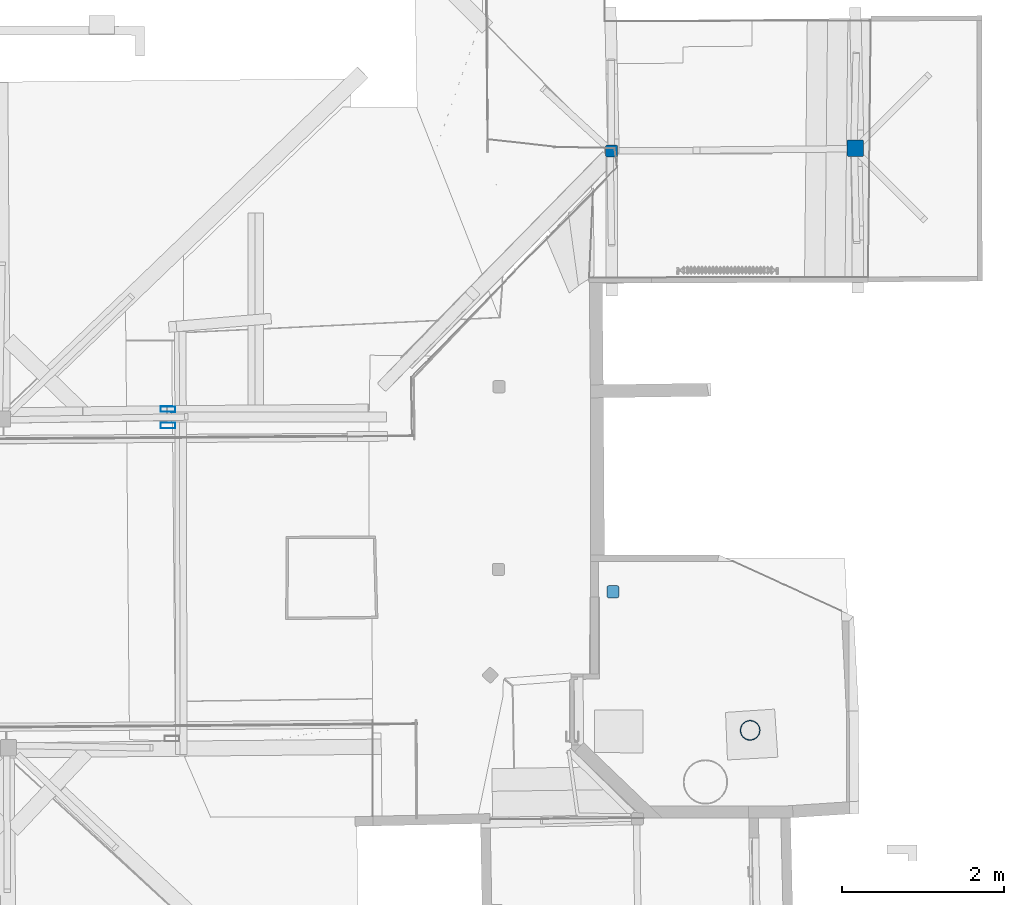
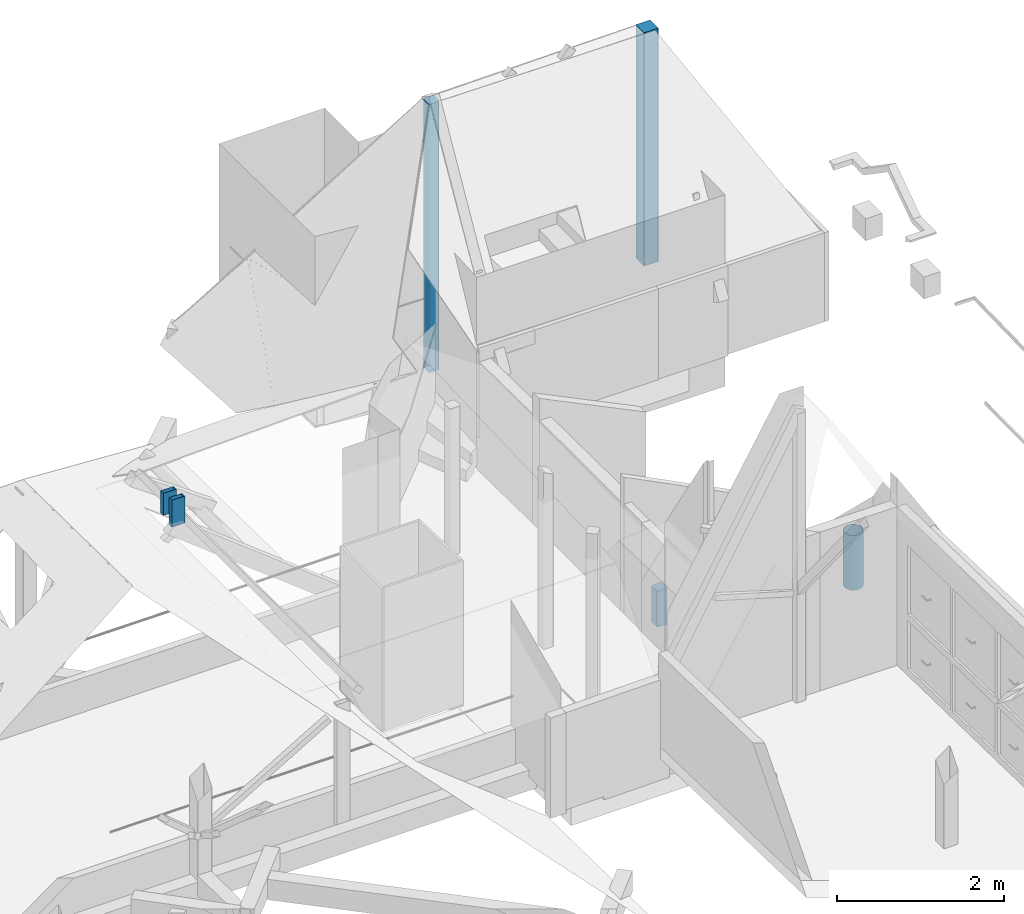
# One storey, part 3 of 39: 6 columns.
"""IFC2X3 building model written with IfcOpenShell, lengths in centimetres."""

from ifc_helpers import new_model, entity, si_unit, converted_unit, direction, frame, origin, origin_with_axes, origin_2d_with_axis, place, context, subcontext, project, spatial, polyline, rounded_rectangle, hollow_rectangle, hollow_circle, extrude, clip, bounded_halfspace, source, transform, mapped, material, type_object, element, save


model = new_model("IFC2X3")

# Units and contexts
model_context = context("Model", 3, precision=0.0001, world=origin(), true_north=direction((0.225632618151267, 0.974212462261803, 0.0)))
body_context = subcontext(model_context, "Body", "Model", "MODEL_VIEW")
ifc_project = project(units=[si_unit("LENGTHUNIT", "METRE", prefix="CENTI"), si_unit("AREAUNIT", "SQUARE_METRE", prefix="CENTI"), si_unit("VOLUMEUNIT", "CUBIC_METRE", prefix="CENTI"), converted_unit("PLANEANGLEUNIT", "DEGREE", entity("IfcRatioMeasure", 0.0174532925), si_unit("PLANEANGLEUNIT", "RADIAN"), dimensions=[0, 0, 0, 0, 0, 0, 0])], contexts=[model_context])

# Site, building, storey
site_placement = place(None, origin_with_axes())
site = spatial("IfcSite", under=ifc_project, at=site_placement, Name="Default Site", CompositionType="ELEMENT")
building_placement = place(site_placement, origin_with_axes())
building = spatial("IfcBuilding", under=site, at=building_placement, Name="Default Building", CompositionType="ELEMENT")
storey_placement = place(building_placement, frame((0.0, 0.0, 1088.91037418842), z_axis=(0.0, 0.0, 1.0), x_axis=(1.0, 0.0, 0.0)))
storey = spatial("IfcBuildingStorey", under=building, at=storey_placement, Name="Mezzanine", CompositionType="ELEMENT", Elevation=1088.91037418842)

# Columns
ifc_material_1 = material(Name="Blanc")
column_type_1 = type_object("IfcColumnType", Name="150.0x150.0x25.0", PredefinedType="USERDEFINED", material=ifc_material_1)
shared_shape_1 = source(origin_with_axes(), body_context, "Body", "SweptSolid", [
    extrude(rounded_rectangle(XDim=15.0, YDim=15.0, RoundingRadius=2.5, at=origin_2d_with_axis()), origin_with_axes(), (0.0, 0.0, 1.0), 100.0),
])
column_1_placement = place(storey_placement, frame((534.47933101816, -73.8568738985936, 0.0), z_axis=(0.0, 0.0, 1.0), x_axis=(1.0, 0.0, 0.0)))
element("IfcColumn", 1, at=column_1_placement, inside=storey, type_object=column_type_1, material=ifc_material_1, Name="Poteau 197676", ObjectType="column", context=body_context, shape_type="MappedRepresentation", body=[
    mapped(shared_shape_1, transform((0.0, 0.0, -1.77635683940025e-13), x_axis=(1.0, 0.0, 0.0), y_axis=(0.0, 1.0, 0.0), z_axis=(0.0, 0.0, 1.0), scale=1.0, scale2=1.0, scale3=0.523938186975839, uniform=False)),
])
column_2_placement = place(storey_placement, frame((532.922333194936, 469.305511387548, 43.0), z_axis=(0.0, 0.0, 1.0), x_axis=(1.0, 0.0, 0.0)))
element("IfcColumn", 2, at=column_2_placement, inside=storey, type_object=column_type_1, material=ifc_material_1, Name="Poteau 196095", ObjectType="column", context=body_context, shape_type="MappedRepresentation", body=[
    mapped(shared_shape_1, transform((0.0, 0.0, -1.77635683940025e-13), x_axis=(1.0, 0.0, 0.0), y_axis=(0.0, 1.0, 0.0), z_axis=(0.0, 0.0, 1.0), scale=1.0, scale2=1.0, scale3=3.91702416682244, uniform=False)),
])
ifc_material_2 = material(Name="Aluminium mat")
column_type_2 = type_object("IfcColumnType", Name="O 244.5x6.3", PredefinedType="USERDEFINED", material=ifc_material_2)
shared_shape_2 = source(origin_with_axes(), body_context, "Body", "SweptSolid", [
    extrude(hollow_circle(Radius=12.225, WallThickness=0.63, at=origin_2d_with_axis()), origin_with_axes(), (0.0, 0.0, 1.0), 100.0),
])
column_3_placement = place(storey_placement, frame((703.661144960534, -244.579724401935, 100.0), z_axis=(0.0, 0.0, 1.0), x_axis=(1.0, 0.0, 0.0)))
element("IfcColumn", 3, at=column_3_placement, inside=storey, type_object=column_type_2, material=ifc_material_2, Name="Poteau Acier 197633", ObjectType="column", context=body_context, shape_type="MappedRepresentation", body=[
    mapped(shared_shape_2, transform((-8.88178419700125e-14, 0.0, -1.77635683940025e-13), x_axis=(1.0, 0.0, 0.0), y_axis=(0.0, 1.0, 0.0), z_axis=(0.0, 0.0, 1.0), scale=1.0, scale2=1.0, scale3=0.797024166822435, uniform=False)),
])
column_type_3 = type_object("IfcColumnType", Name="200,00x200,00x10,00", PredefinedType="USERDEFINED", material=ifc_material_1)
shared_shape_3 = source(origin_with_axes(), body_context, "Body", "SweptSolid", [
    extrude(rounded_rectangle(XDim=20.0, YDim=20.0, RoundingRadius=1.0, at=origin_2d_with_axis()), origin_with_axes(), (0.0, 0.0, 1.0), 100.0),
])
column_4_placement = place(storey_placement, frame((833.247600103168, 472.80525459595, 93.9999999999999), z_axis=(0.0, 0.0, 1.0), x_axis=(1.0, 0.0, 0.0)))
element("IfcColumn", 4, at=column_4_placement, inside=storey, type_object=column_type_3, material=ifc_material_1, Name="Poteau 192923", ObjectType="column", context=body_context, shape_type="MappedRepresentation", body=[
    mapped(shared_shape_3, transform((0.0, 0.0, -1.77635683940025e-13), x_axis=(1.0, 0.0, 0.0), y_axis=(0.0, 1.0, 0.0), z_axis=(0.0, 0.0, 1.0), scale=1.0, scale2=1.0, scale3=3.40702416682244, uniform=False)),
])
column_type_4 = type_object("IfcColumnType", Name="180x68", PredefinedType="USERDEFINED", material=ifc_material_1)
column_5_placement = place(storey_placement, frame((-13.718980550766, 130.999600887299, -18.0), z_axis=(0.0, 0.0, 1.0), x_axis=(-0.00583777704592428, -0.999982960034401, 0.0)))
element("IfcColumn", 5, at=column_5_placement, inside=storey, type_object=column_type_4, material=ifc_material_1, Name="Poteau 222987", ObjectType="column", context=body_context, shape_type="Clipping", body=[
    clip(extrude(hollow_rectangle(XDim=6.8, YDim=18.0, WallThickness=0.2, at=origin_2d_with_axis()), frame((0.0, 0.0, 230.30736125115), z_axis=(0.0, 0.0, 1.0), x_axis=(1.0, 0.0, 0.0)), (0.0, 0.0, 1.0), 39.1225239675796), bounded_halfspace(frame((3.4, 9.0, 270.13071969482), z_axis=(0.102520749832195, 0.0012903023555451, -0.994730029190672), x_axis=(4.8919202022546e-16, -0.99999915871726, -0.00129713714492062)), True, frame((3.4, 9.0, 270.13071969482), z_axis=(0.0, 0.0, 1.0), x_axis=(1.0, 0.0, 0.0)), polyline([(0.0, -1.38777878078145e-15), (4.44089209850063e-14, -18.0), (-6.79999999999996, -18.0), (-6.80000000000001, -1.38777878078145e-15), (0.0, -1.38777878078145e-15)]))),
])
column_6_placement = place(storey_placement, frame((-13.8205995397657, 151.102842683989, -18.0), z_axis=(0.0, 0.0, 1.0), x_axis=(-0.00583777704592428, -0.999982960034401, 0.0)))
element("IfcColumn", 6, at=column_6_placement, inside=storey, type_object=column_type_4, material=ifc_material_1, Name="Poteau 222984", ObjectType="column", context=body_context, shape_type="Clipping", body=[
    clip(extrude(hollow_rectangle(XDim=6.8, YDim=18.0, WallThickness=0.2, at=origin_2d_with_axis()), frame((0.0, 0.0, 235.083365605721), z_axis=(0.0, 0.0, 1.0), x_axis=(1.0, 0.0, 0.0)), (0.0, 0.0, 1.0), 32.2744136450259), bounded_halfspace(frame((3.4, 9.0, 268.058613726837), z_axis=(0.102520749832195, 0.0012903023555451, -0.994730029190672), x_axis=(4.8919202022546e-16, -0.99999915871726, -0.00129713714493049)), True, frame((3.4, 9.0, 268.058613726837), z_axis=(0.0, 0.0, 1.0), x_axis=(1.0, 0.0, 0.0)), polyline([(0.0, 0.0), (0.0, -18.0), (-6.80000000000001, -18.0), (-6.80000000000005, -1.38777878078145e-15), (0.0, 0.0)]))),
])

save(model, "model.ifc")
